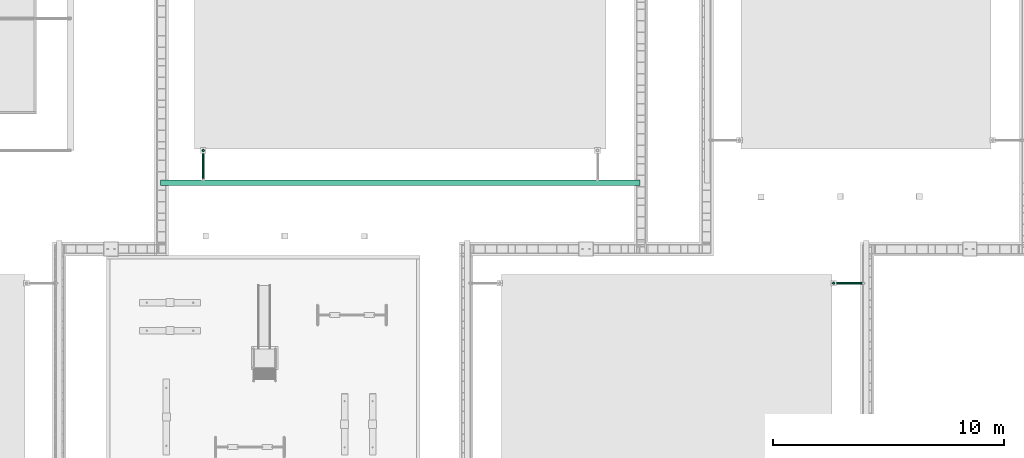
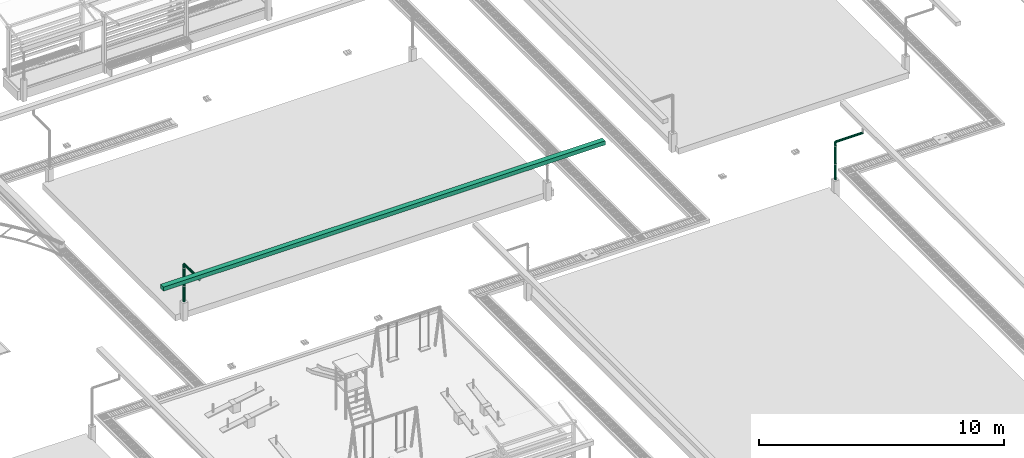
# One storey, part 40 of 90: 5 flow segments.
"""IFC2X3 building model written with IfcOpenShell, lengths in metres."""

from ifc_helpers import new_model, si_unit, origin, origin_with_axes, place, context, subcontext, project, spatial, faceted_brep, element, save


model = new_model("IFC2X3")

# Units and contexts
model_context = context("Model", 3, precision=1e-05, world=origin_with_axes())
body_context = subcontext(model_context, "Body", "Model", "MODEL_VIEW")
ifc_project = project(units=[si_unit("LENGTHUNIT", "METRE"), si_unit("AREAUNIT", "SQUARE_METRE"), si_unit("VOLUMEUNIT", "CUBIC_METRE"), si_unit("PLANEANGLEUNIT", "RADIAN")], contexts=[model_context])

# Site, building, storey
site_placement = place(None, origin_with_axes())
site = spatial("IfcSite", under=ifc_project, at=site_placement, Name="Predio Los Mangos - Morales, San Martín", CompositionType="ELEMENT")
building_placement = place(site_placement, origin())
building = spatial("IfcBuilding", under=site, at=building_placement, Name="Hogar de Refugio Temporal", CompositionType="ELEMENT")
storey_placement = place(building_placement, origin())
storey = spatial("IfcBuildingStorey", under=building, at=storey_placement, Name="NIVEL 1 (NPT +0.00)", CompositionType="ELEMENT", Elevation=0.0)

# Flow segments
flow_segment_1_placement = place(storey_placement, origin())
element("IfcFlowSegment", 1, at=flow_segment_1_placement, inside=storey, Name="E-06_canaleta", ObjectType="Canaleta", context=body_context, shape_type="Brep", body=[
    faceted_brep([(30.5, 91.08, 3.13), (30.5, 91.32, 3.13), (51.3, 91.32, 3.13), (51.3, 91.08, 3.13), (30.5, 91.08, 3.33), (51.3, 91.08, 3.33), (51.3, 91.32, 3.33), (30.5, 91.32, 3.33)], [[[0, 1, 2, 3]], [[4, 5, 6, 7]], [[0, 3, 5, 4]], [[3, 2, 6, 5]], [[2, 1, 7, 6]], [[1, 0, 4, 7]]]),
])
flow_segment_2_placement = place(storey_placement, origin())
element("IfcFlowSegment", 2, at=flow_segment_2_placement, inside=storey, Name="montante_desvio", ObjectType="Montante PVC 4\"", context=body_context, shape_type="Brep", body=[
    faceted_brep([(60.98, 86.85, 2.965), (59.69, 86.85, 2.965), (59.69, 86.8225, 2.9576), (60.98, 86.8225, 2.9576), (59.69, 86.8024, 2.9375), (60.98, 86.8024, 2.9375), (59.69, 86.795, 2.91), (60.98, 86.795, 2.91), (59.69, 86.8024, 2.8825), (60.98, 86.8024, 2.8825), (59.69, 86.8225, 2.8624), (60.98, 86.8225, 2.8624), (59.69, 86.85, 2.855), (60.98, 86.85, 2.855), (59.69, 86.8775, 2.8624), (60.98, 86.8775, 2.8624), (59.69, 86.8976, 2.8825), (60.98, 86.8976, 2.8825), (59.69, 86.905, 2.91), (60.98, 86.905, 2.91), (59.69, 86.8976, 2.9375), (60.98, 86.8976, 2.9375), (59.69, 86.8775, 2.9576), (60.98, 86.8775, 2.9576)], [[[0, 1, 2, 3]], [[3, 2, 4, 5]], [[5, 4, 6, 7]], [[7, 6, 8, 9]], [[9, 8, 10, 11]], [[11, 10, 12, 13]], [[13, 12, 14, 15]], [[15, 14, 16, 17]], [[17, 16, 18, 19]], [[19, 18, 20, 21]], [[2, 1, 22, 20, 18, 16, 14, 12, 10, 8, 6, 4]], [[21, 20, 22, 23]], [[23, 22, 1, 0]], [[0, 3, 5, 7, 9, 11, 13, 15, 17, 19, 21, 23]]]),
])
flow_segment_3_placement = place(storey_placement, origin())
element("IfcFlowSegment", 3, at=flow_segment_3_placement, inside=storey, Name="montante_bajada", ObjectType="Montante PVC 4\"", context=body_context, shape_type="Brep", body=[
    faceted_brep([(59.69, 86.905, 2.91), (59.69, 86.905, 1.05), (59.6625, 86.8976, 1.05), (59.6625, 86.8976, 2.91), (59.6424, 86.8775, 1.05), (59.6424, 86.8775, 2.91), (59.635, 86.85, 1.05), (59.635, 86.85, 2.91), (59.6424, 86.8225, 1.05), (59.6424, 86.8225, 2.91), (59.6625, 86.8024, 1.05), (59.6625, 86.8024, 2.91), (59.69, 86.795, 1.05), (59.69, 86.795, 2.91), (59.7175, 86.8024, 1.05), (59.7175, 86.8024, 2.91), (59.7376, 86.8225, 1.05), (59.7376, 86.8225, 2.91), (59.745, 86.85, 1.05), (59.745, 86.85, 2.91), (59.7376, 86.8775, 1.05), (59.7376, 86.8775, 2.91), (59.7175, 86.8976, 1.05), (59.7175, 86.8976, 2.91)], [[[0, 1, 2, 3]], [[3, 2, 4, 5]], [[5, 4, 6, 7]], [[7, 6, 8, 9]], [[9, 8, 10, 11]], [[11, 10, 12, 13]], [[13, 12, 14, 15]], [[15, 14, 16, 17]], [[17, 16, 18, 19]], [[19, 18, 20, 21]], [[2, 1, 22, 20, 18, 16, 14, 12, 10, 8, 6, 4]], [[21, 20, 22, 23]], [[23, 22, 1, 0]], [[0, 3, 5, 7, 9, 11, 13, 15, 17, 19, 21, 23]]]),
])
flow_segment_4_placement = place(storey_placement, origin())
element("IfcFlowSegment", 4, at=flow_segment_4_placement, inside=storey, Name="montante_desvio", ObjectType="Montante PVC 4\"", context=body_context, shape_type="Brep", body=[
    faceted_brep([(32.35, 91.32, 2.965), (32.35, 92.61, 2.965), (32.3225, 92.61, 2.9576), (32.3225, 91.32, 2.9576), (32.3024, 92.61, 2.9375), (32.3024, 91.32, 2.9375), (32.295, 92.61, 2.91), (32.295, 91.32, 2.91), (32.3024, 92.61, 2.8825), (32.3024, 91.32, 2.8825), (32.3225, 92.61, 2.8624), (32.3225, 91.32, 2.8624), (32.35, 92.61, 2.855), (32.35, 91.32, 2.855), (32.3775, 92.61, 2.8624), (32.3775, 91.32, 2.8624), (32.3976, 92.61, 2.8825), (32.3976, 91.32, 2.8825), (32.405, 92.61, 2.91), (32.405, 91.32, 2.91), (32.3976, 92.61, 2.9375), (32.3976, 91.32, 2.9375), (32.3775, 92.61, 2.9576), (32.3775, 91.32, 2.9576)], [[[0, 1, 2, 3]], [[3, 2, 4, 5]], [[5, 4, 6, 7]], [[7, 6, 8, 9]], [[9, 8, 10, 11]], [[11, 10, 12, 13]], [[13, 12, 14, 15]], [[15, 14, 16, 17]], [[17, 16, 18, 19]], [[19, 18, 20, 21]], [[2, 1, 22, 20, 18, 16, 14, 12, 10, 8, 6, 4]], [[21, 20, 22, 23]], [[23, 22, 1, 0]], [[0, 3, 5, 7, 9, 11, 13, 15, 17, 19, 21, 23]]]),
])
flow_segment_5_placement = place(storey_placement, origin())
element("IfcFlowSegment", 5, at=flow_segment_5_placement, inside=storey, Name="montante_bajada", ObjectType="Montante PVC 4\"", context=body_context, shape_type="Brep", body=[
    faceted_brep([(32.35, 92.665, 2.91), (32.35, 92.665, 1.05), (32.3225, 92.6576, 1.05), (32.3225, 92.6576, 2.91), (32.3024, 92.6375, 1.05), (32.3024, 92.6375, 2.91), (32.295, 92.61, 1.05), (32.295, 92.61, 2.91), (32.3024, 92.5825, 1.05), (32.3024, 92.5825, 2.91), (32.3225, 92.5624, 1.05), (32.3225, 92.5624, 2.91), (32.35, 92.555, 1.05), (32.35, 92.555, 2.91), (32.3775, 92.5624, 1.05), (32.3775, 92.5624, 2.91), (32.3976, 92.5825, 1.05), (32.3976, 92.5825, 2.91), (32.405, 92.61, 1.05), (32.405, 92.61, 2.91), (32.3976, 92.6375, 1.05), (32.3976, 92.6375, 2.91), (32.3775, 92.6576, 1.05), (32.3775, 92.6576, 2.91)], [[[0, 1, 2, 3]], [[3, 2, 4, 5]], [[5, 4, 6, 7]], [[7, 6, 8, 9]], [[9, 8, 10, 11]], [[11, 10, 12, 13]], [[13, 12, 14, 15]], [[15, 14, 16, 17]], [[17, 16, 18, 19]], [[19, 18, 20, 21]], [[2, 1, 22, 20, 18, 16, 14, 12, 10, 8, 6, 4]], [[21, 20, 22, 23]], [[23, 22, 1, 0]], [[0, 3, 5, 7, 9, 11, 13, 15, 17, 19, 21, 23]]]),
])

save(model, "model.ifc")
